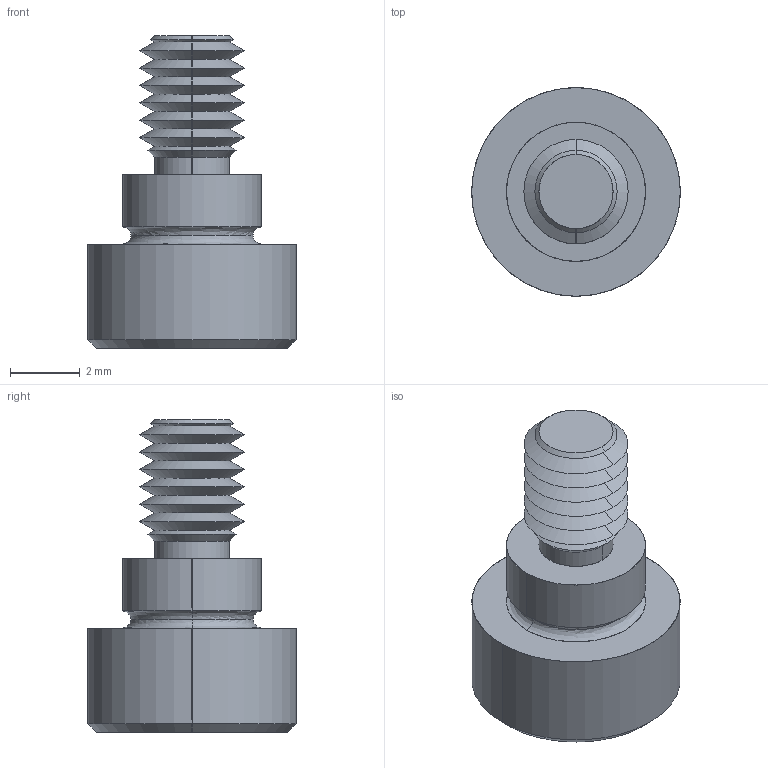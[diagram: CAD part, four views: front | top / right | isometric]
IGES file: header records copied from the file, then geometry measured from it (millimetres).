
Start section: SolidWorks IGES file using analytic representation for surfaces
Global section: file name: C:\Users\IanO\Documents\Temp Folder\GENERAL\SCREW REVISION\P0130_v2\P0130.T5_v2_20220106_IGES\P0130.040-002-T5.igs; native system: SolidWorks 2019; preprocessor: SolidWorks 2019; author: IanO; date: 220106.220352; units: millimetre
Bounding box: 6 x 6 x 9 mm (x, y, z)
Surface area: 210 mm2 (no closed solid volume)
Topology: 0 solids, 0 shells, 68 faces, 520 edges, 518 vertices
Faces by surface type: revolution 48, bspline 20
